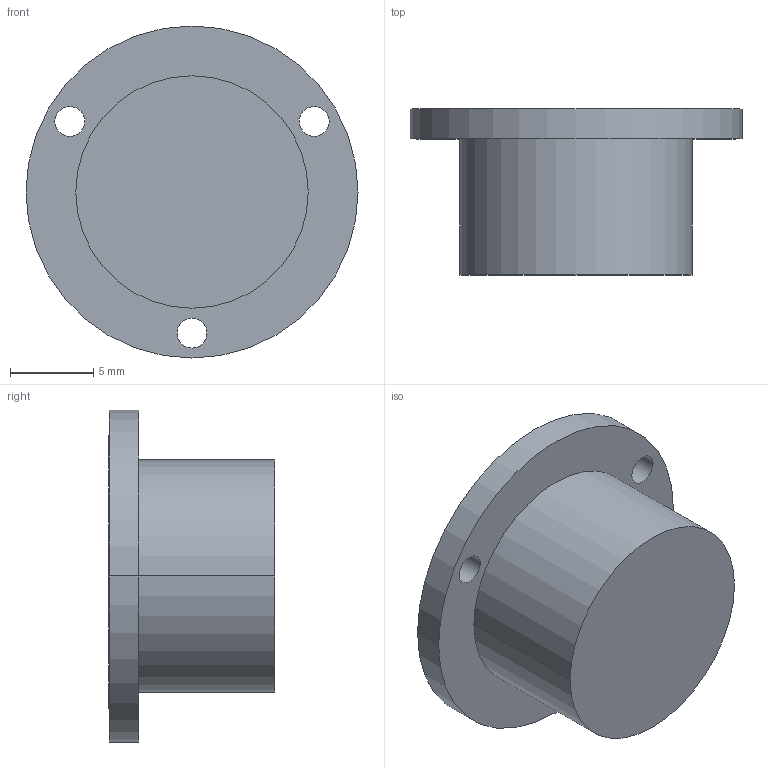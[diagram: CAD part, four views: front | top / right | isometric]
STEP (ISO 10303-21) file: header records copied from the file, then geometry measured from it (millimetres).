
FILE_DESCRIPTION (( 'STEP AP214' ), '1' );
FILE_NAME ('2277-ALN-20-K-30-B.step', '2020-03-26T09:48:24', ( '' ), ( '' ), 'SwSTEP 2.0', 'SolidWorks 2019', '' );
FILE_SCHEMA (( 'AUTOMOTIVE_DESIGN' ));
Length unit declared in the file: millimetre
Products named in the file (1): 2277-ALN-20-K-30-B
Bounding box: 20 x 10 x 20 mm (x, y, z)
Volume: 1697.1 mm3; surface area: 1171.9 mm2
Topology: 1 solids, 1 shells, 28 faces, 60 edges, 38 vertices
Faces by surface type: cylinder 18, plane 6, torus 2, cone 2
Entity records: 855 total; most frequent: DIRECTION 158, CARTESIAN_POINT 127, ORIENTED_EDGE 120, AXIS2_PLACEMENT_3D 69, EDGE_CURVE 60, CIRCLE 40, VERTEX_POINT 38, EDGE_LOOP 38
